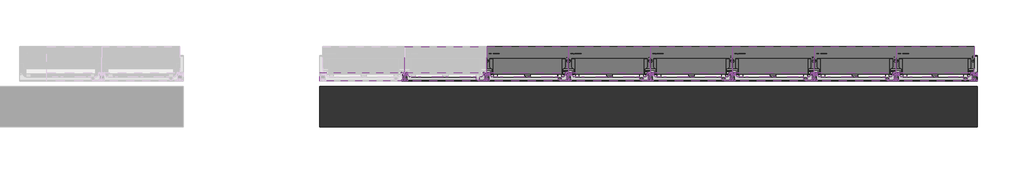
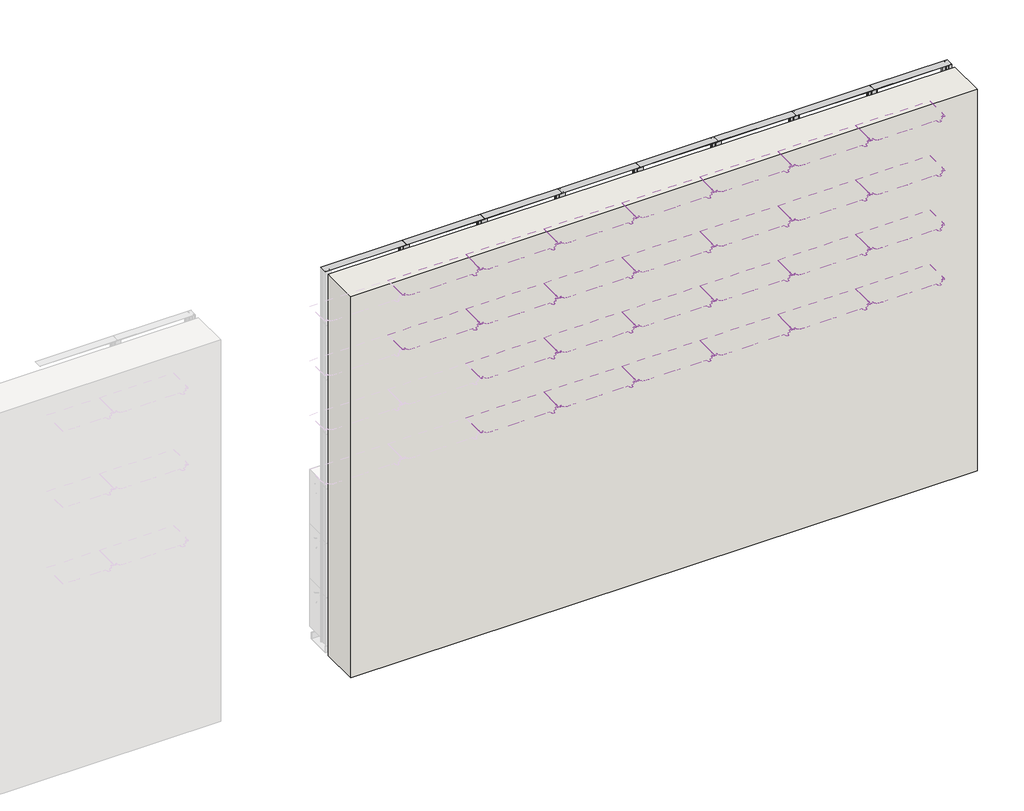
# One storey, part 3 of 3: 69 members, 44 coverings, 1 wall.
"""IFC4 building model written with IfcOpenShell, lengths in millimetres."""

from ifc_helpers import new_model, si_unit, origin, origin_with_axes, place, context, project, spatial, polyline, outline, extrude, transform, mapped, element, save
from components import covering_7a5a7cfb, covering_14e27d56, covering_4c2a7df2, covering_16bc3edb, covering_8846b90d, covering_6783e6d6, covering_dcb4c012, covering_a6f7bad7, covering_4e535264, covering_ffdf41f5, covering_7d83ccac, covering_c7b0dbd7, montante_rettangolare_9a79dadd, montante_rettangolare_b34aec30, montante_rettangolare_631e3b4a, montante_rettangolare_e932fd89, montante_rettangolare_6998f733, montante_rettangolare_dbf9407e, montante_rettangolare_a1bb0029, montante_rettangolare_babdd543, montante_rettangolare_953541ee, montante_rettangolare_093b8246, montante_rettangolare_ba41fc1c

model = new_model("IFC4")

# Units and contexts
model_context = context("Model", 3, world=origin())
ifc_project = project(units=[si_unit("LENGTHUNIT", "METRE", prefix="MILLI")], contexts=[model_context])

# Site, building, storey
site = spatial("IfcSite", under=ifc_project)
building = spatial("IfcBuilding", under=site)
storey = spatial("IfcBuildingStorey", under=building, Name="Plant view - Fine details level - VP Modulo", Elevation=0.0)

# Coverings
placement = place(None, origin())
covering_shape = covering_7a5a7cfb(model_context)
covering_2_shape = covering_14e27d56(model_context)
element("IfcCovering", 1, ObjectType="panel VP Modulo prova ultima texture : panel VP Modulo prova ultima texture", at=placement, inside=storey, context=model_context, shape_type="MappedRepresentation", body=[
    mapped(covering_shape, transform((12126.1795041, -498.0626129, 52.4801246), x_axis=(1.0, 0.0, 0.0), y_axis=(0.0, 1.0, 0.0), z_axis=(0.0, 0.0, 1.0))),
    mapped(covering_2_shape, transform((12126.1795041, -498.0626129, 52.4801246), x_axis=(1.0, 0.0, 0.0), y_axis=(0.0, 1.0, 0.0), z_axis=(0.0, 0.0, 1.0))),
])
element("IfcCovering", 2, ObjectType="panel VP Modulo prova ultima texture : panel VP Modulo prova ultima texture", at=placement, inside=storey, context=model_context, shape_type="MappedRepresentation", body=[
    mapped(covering_shape, transform((12726.1795041, -498.0626129, 52.4801246), x_axis=(1.0, 0.0, 0.0), y_axis=(0.0, 1.0, 0.0), z_axis=(0.0, 0.0, 1.0))),
    mapped(covering_2_shape, transform((12726.1795041, -498.0626129, 52.4801246), x_axis=(1.0, 0.0, 0.0), y_axis=(0.0, 1.0, 0.0), z_axis=(0.0, 0.0, 1.0))),
])
element("IfcCovering", 3, ObjectType="panel VP Modulo prova ultima texture : panel VP Modulo prova ultima texture", at=placement, inside=storey, context=model_context, shape_type="MappedRepresentation", body=[
    mapped(covering_shape, transform((13326.1795041, -498.0626129, 52.4801246), x_axis=(1.0, 0.0, 0.0), y_axis=(0.0, 1.0, 0.0), z_axis=(0.0, 0.0, 1.0))),
    mapped(covering_2_shape, transform((13326.1795041, -498.0626129, 52.4801246), x_axis=(1.0, 0.0, 0.0), y_axis=(0.0, 1.0, 0.0), z_axis=(0.0, 0.0, 1.0))),
])
element("IfcCovering", 4, ObjectType="panel VP Modulo prova ultima texture : panel VP Modulo prova ultima texture", at=placement, inside=storey, context=model_context, shape_type="MappedRepresentation", body=[
    mapped(covering_shape, transform((13926.1795041, -498.0626129, 52.4801246), x_axis=(1.0, 0.0, 0.0), y_axis=(0.0, 1.0, 0.0), z_axis=(0.0, 0.0, 1.0))),
    mapped(covering_2_shape, transform((13926.1795041, -498.0626129, 52.4801246), x_axis=(1.0, 0.0, 0.0), y_axis=(0.0, 1.0, 0.0), z_axis=(0.0, 0.0, 1.0))),
])
element("IfcCovering", 5, ObjectType="panel VP Modulo prova ultima texture : panel VP Modulo prova ultima texture", at=placement, inside=storey, context=model_context, shape_type="MappedRepresentation", body=[
    mapped(covering_shape, transform((14526.1795041, -498.0626129, 52.4801246), x_axis=(1.0, 0.0, 0.0), y_axis=(0.0, 1.0, 0.0), z_axis=(0.0, 0.0, 1.0))),
    mapped(covering_2_shape, transform((14526.1795041, -498.0626129, 52.4801246), x_axis=(1.0, 0.0, 0.0), y_axis=(0.0, 1.0, 0.0), z_axis=(0.0, 0.0, 1.0))),
])
covering_3_shape = covering_4c2a7df2(model_context)
covering_4_shape = covering_16bc3edb(model_context)
element("IfcCovering", 6, ObjectType="panel VP Modulo prova ultima texture : panel VP Modulo prova ultima texture", at=placement, inside=storey, context=model_context, shape_type="MappedRepresentation", body=[
    mapped(covering_3_shape, transform((15112.41991, -498.0626129, 52.4801246), x_axis=(1.0, 0.0, 0.0), y_axis=(0.0, 1.0, 0.0), z_axis=(0.0, 0.0, 1.0))),
    mapped(covering_4_shape, transform((15112.41991, -498.0626129, 52.4801246), x_axis=(1.0, 0.0, 0.0), y_axis=(0.0, 1.0, 0.0), z_axis=(0.0, 0.0, 1.0))),
])
covering_5_shape = covering_8846b90d(model_context)
covering_6_shape = covering_6783e6d6(model_context)
element("IfcCovering", 7, ObjectType="panel VP Modulo prova ultima texture : panel VP Modulo prova ultima texture", at=placement, inside=storey, context=model_context, shape_type="MappedRepresentation", body=[
    mapped(covering_5_shape, transform((12126.1795041, -498.0626129, 442.8571429), x_axis=(1.0, 0.0, 0.0), y_axis=(0.0, 1.0, 0.0), z_axis=(0.0, 0.0, 1.0))),
    mapped(covering_6_shape, transform((12126.1795041, -498.0626129, 442.8571429), x_axis=(1.0, 0.0, 0.0), y_axis=(0.0, 1.0, 0.0), z_axis=(0.0, 0.0, 1.0))),
])
element("IfcCovering", 8, ObjectType="panel VP Modulo prova ultima texture : panel VP Modulo prova ultima texture", at=placement, inside=storey, context=model_context, shape_type="MappedRepresentation", body=[
    mapped(covering_5_shape, transform((12726.1795041, -498.0626129, 442.8571429), x_axis=(1.0, 0.0, 0.0), y_axis=(0.0, 1.0, 0.0), z_axis=(0.0, 0.0, 1.0))),
    mapped(covering_6_shape, transform((12726.1795041, -498.0626129, 442.8571429), x_axis=(1.0, 0.0, 0.0), y_axis=(0.0, 1.0, 0.0), z_axis=(0.0, 0.0, 1.0))),
])
element("IfcCovering", 9, ObjectType="panel VP Modulo prova ultima texture : panel VP Modulo prova ultima texture", at=placement, inside=storey, context=model_context, shape_type="MappedRepresentation", body=[
    mapped(covering_5_shape, transform((13326.1795041, -498.0626129, 442.8571429), x_axis=(1.0, 0.0, 0.0), y_axis=(0.0, 1.0, 0.0), z_axis=(0.0, 0.0, 1.0))),
    mapped(covering_6_shape, transform((13326.1795041, -498.0626129, 442.8571429), x_axis=(1.0, 0.0, 0.0), y_axis=(0.0, 1.0, 0.0), z_axis=(0.0, 0.0, 1.0))),
])
element("IfcCovering", 10, ObjectType="panel VP Modulo prova ultima texture : panel VP Modulo prova ultima texture", at=placement, inside=storey, context=model_context, shape_type="MappedRepresentation", body=[
    mapped(covering_5_shape, transform((13926.1795041, -498.0626129, 442.8571429), x_axis=(1.0, 0.0, 0.0), y_axis=(0.0, 1.0, 0.0), z_axis=(0.0, 0.0, 1.0))),
    mapped(covering_6_shape, transform((13926.1795041, -498.0626129, 442.8571429), x_axis=(1.0, 0.0, 0.0), y_axis=(0.0, 1.0, 0.0), z_axis=(0.0, 0.0, 1.0))),
])
element("IfcCovering", 11, ObjectType="panel VP Modulo prova ultima texture : panel VP Modulo prova ultima texture", at=placement, inside=storey, context=model_context, shape_type="MappedRepresentation", body=[
    mapped(covering_5_shape, transform((14526.1795041, -498.0626129, 442.8571429), x_axis=(1.0, 0.0, 0.0), y_axis=(0.0, 1.0, 0.0), z_axis=(0.0, 0.0, 1.0))),
    mapped(covering_6_shape, transform((14526.1795041, -498.0626129, 442.8571429), x_axis=(1.0, 0.0, 0.0), y_axis=(0.0, 1.0, 0.0), z_axis=(0.0, 0.0, 1.0))),
])
element("IfcCovering", 12, ObjectType="panel VP Modulo prova ultima texture : panel VP Modulo prova ultima texture", at=placement, inside=storey, context=model_context, shape_type="MappedRepresentation", body=[
    mapped(covering_5_shape, transform((12126.1795041, -498.0626129, 885.7142857), x_axis=(1.0, 0.0, 0.0), y_axis=(0.0, 1.0, 0.0), z_axis=(0.0, 0.0, 1.0))),
    mapped(covering_6_shape, transform((12126.1795041, -498.0626129, 885.7142857), x_axis=(1.0, 0.0, 0.0), y_axis=(0.0, 1.0, 0.0), z_axis=(0.0, 0.0, 1.0))),
])
element("IfcCovering", 13, ObjectType="panel VP Modulo prova ultima texture : panel VP Modulo prova ultima texture", at=placement, inside=storey, context=model_context, shape_type="MappedRepresentation", body=[
    mapped(covering_5_shape, transform((12726.1795041, -498.0626129, 885.7142857), x_axis=(1.0, 0.0, 0.0), y_axis=(0.0, 1.0, 0.0), z_axis=(0.0, 0.0, 1.0))),
    mapped(covering_6_shape, transform((12726.1795041, -498.0626129, 885.7142857), x_axis=(1.0, 0.0, 0.0), y_axis=(0.0, 1.0, 0.0), z_axis=(0.0, 0.0, 1.0))),
])
element("IfcCovering", 14, ObjectType="panel VP Modulo prova ultima texture : panel VP Modulo prova ultima texture", at=placement, inside=storey, context=model_context, shape_type="MappedRepresentation", body=[
    mapped(covering_5_shape, transform((13326.1795041, -498.0626129, 885.7142857), x_axis=(1.0, 0.0, 0.0), y_axis=(0.0, 1.0, 0.0), z_axis=(0.0, 0.0, 1.0))),
    mapped(covering_6_shape, transform((13326.1795041, -498.0626129, 885.7142857), x_axis=(1.0, 0.0, 0.0), y_axis=(0.0, 1.0, 0.0), z_axis=(0.0, 0.0, 1.0))),
])
element("IfcCovering", 15, ObjectType="panel VP Modulo prova ultima texture : panel VP Modulo prova ultima texture", at=placement, inside=storey, context=model_context, shape_type="MappedRepresentation", body=[
    mapped(covering_5_shape, transform((13926.1795041, -498.0626129, 885.7142857), x_axis=(1.0, 0.0, 0.0), y_axis=(0.0, 1.0, 0.0), z_axis=(0.0, 0.0, 1.0))),
    mapped(covering_6_shape, transform((13926.1795041, -498.0626129, 885.7142857), x_axis=(1.0, 0.0, 0.0), y_axis=(0.0, 1.0, 0.0), z_axis=(0.0, 0.0, 1.0))),
])
element("IfcCovering", 16, ObjectType="panel VP Modulo prova ultima texture : panel VP Modulo prova ultima texture", at=placement, inside=storey, context=model_context, shape_type="MappedRepresentation", body=[
    mapped(covering_5_shape, transform((14526.1795041, -498.0626129, 885.7142857), x_axis=(1.0, 0.0, 0.0), y_axis=(0.0, 1.0, 0.0), z_axis=(0.0, 0.0, 1.0))),
    mapped(covering_6_shape, transform((14526.1795041, -498.0626129, 885.7142857), x_axis=(1.0, 0.0, 0.0), y_axis=(0.0, 1.0, 0.0), z_axis=(0.0, 0.0, 1.0))),
])
element("IfcCovering", 17, ObjectType="panel VP Modulo prova ultima texture : panel VP Modulo prova ultima texture", at=placement, inside=storey, context=model_context, shape_type="MappedRepresentation", body=[
    mapped(covering_5_shape, transform((12126.1795041, -498.0626129, 1328.5714286), x_axis=(1.0, 0.0, 0.0), y_axis=(0.0, 1.0, 0.0), z_axis=(0.0, 0.0, 1.0))),
    mapped(covering_6_shape, transform((12126.1795041, -498.0626129, 1328.5714286), x_axis=(1.0, 0.0, 0.0), y_axis=(0.0, 1.0, 0.0), z_axis=(0.0, 0.0, 1.0))),
])
element("IfcCovering", 18, ObjectType="panel VP Modulo prova ultima texture : panel VP Modulo prova ultima texture", at=placement, inside=storey, context=model_context, shape_type="MappedRepresentation", body=[
    mapped(covering_5_shape, transform((12726.1795041, -498.0626129, 1328.5714286), x_axis=(1.0, 0.0, 0.0), y_axis=(0.0, 1.0, 0.0), z_axis=(0.0, 0.0, 1.0))),
    mapped(covering_6_shape, transform((12726.1795041, -498.0626129, 1328.5714286), x_axis=(1.0, 0.0, 0.0), y_axis=(0.0, 1.0, 0.0), z_axis=(0.0, 0.0, 1.0))),
])
element("IfcCovering", 19, ObjectType="panel VP Modulo prova ultima texture : panel VP Modulo prova ultima texture", at=placement, inside=storey, context=model_context, shape_type="MappedRepresentation", body=[
    mapped(covering_5_shape, transform((13326.1795041, -498.0626129, 1328.5714286), x_axis=(1.0, 0.0, 0.0), y_axis=(0.0, 1.0, 0.0), z_axis=(0.0, 0.0, 1.0))),
    mapped(covering_6_shape, transform((13326.1795041, -498.0626129, 1328.5714286), x_axis=(1.0, 0.0, 0.0), y_axis=(0.0, 1.0, 0.0), z_axis=(0.0, 0.0, 1.0))),
])
element("IfcCovering", 20, ObjectType="panel VP Modulo prova ultima texture : panel VP Modulo prova ultima texture", at=placement, inside=storey, context=model_context, shape_type="MappedRepresentation", body=[
    mapped(covering_5_shape, transform((13926.1795041, -498.0626129, 1328.5714286), x_axis=(1.0, 0.0, 0.0), y_axis=(0.0, 1.0, 0.0), z_axis=(0.0, 0.0, 1.0))),
    mapped(covering_6_shape, transform((13926.1795041, -498.0626129, 1328.5714286), x_axis=(1.0, 0.0, 0.0), y_axis=(0.0, 1.0, 0.0), z_axis=(0.0, 0.0, 1.0))),
])
element("IfcCovering", 21, ObjectType="panel VP Modulo prova ultima texture : panel VP Modulo prova ultima texture", at=placement, inside=storey, context=model_context, shape_type="MappedRepresentation", body=[
    mapped(covering_5_shape, transform((14526.1795041, -498.0626129, 1328.5714286), x_axis=(1.0, 0.0, 0.0), y_axis=(0.0, 1.0, 0.0), z_axis=(0.0, 0.0, 1.0))),
    mapped(covering_6_shape, transform((14526.1795041, -498.0626129, 1328.5714286), x_axis=(1.0, 0.0, 0.0), y_axis=(0.0, 1.0, 0.0), z_axis=(0.0, 0.0, 1.0))),
])
element("IfcCovering", 22, ObjectType="panel VP Modulo prova ultima texture : panel VP Modulo prova ultima texture", at=placement, inside=storey, context=model_context, shape_type="MappedRepresentation", body=[
    mapped(covering_5_shape, transform((12126.1795041, -498.0626129, 1771.4285714), x_axis=(1.0, 0.0, 0.0), y_axis=(0.0, 1.0, 0.0), z_axis=(0.0, 0.0, 1.0))),
    mapped(covering_6_shape, transform((12126.1795041, -498.0626129, 1771.4285714), x_axis=(1.0, 0.0, 0.0), y_axis=(0.0, 1.0, 0.0), z_axis=(0.0, 0.0, 1.0))),
])
element("IfcCovering", 23, ObjectType="panel VP Modulo prova ultima texture : panel VP Modulo prova ultima texture", at=placement, inside=storey, context=model_context, shape_type="MappedRepresentation", body=[
    mapped(covering_5_shape, transform((12726.1795041, -498.0626129, 1771.4285714), x_axis=(1.0, 0.0, 0.0), y_axis=(0.0, 1.0, 0.0), z_axis=(0.0, 0.0, 1.0))),
    mapped(covering_6_shape, transform((12726.1795041, -498.0626129, 1771.4285714), x_axis=(1.0, 0.0, 0.0), y_axis=(0.0, 1.0, 0.0), z_axis=(0.0, 0.0, 1.0))),
])
element("IfcCovering", 24, ObjectType="panel VP Modulo prova ultima texture : panel VP Modulo prova ultima texture", at=placement, inside=storey, context=model_context, shape_type="MappedRepresentation", body=[
    mapped(covering_5_shape, transform((13326.1795041, -498.0626129, 1771.4285714), x_axis=(1.0, 0.0, 0.0), y_axis=(0.0, 1.0, 0.0), z_axis=(0.0, 0.0, 1.0))),
    mapped(covering_6_shape, transform((13326.1795041, -498.0626129, 1771.4285714), x_axis=(1.0, 0.0, 0.0), y_axis=(0.0, 1.0, 0.0), z_axis=(0.0, 0.0, 1.0))),
])
element("IfcCovering", 25, ObjectType="panel VP Modulo prova ultima texture : panel VP Modulo prova ultima texture", at=placement, inside=storey, context=model_context, shape_type="MappedRepresentation", body=[
    mapped(covering_5_shape, transform((13926.1795041, -498.0626129, 1771.4285714), x_axis=(1.0, 0.0, 0.0), y_axis=(0.0, 1.0, 0.0), z_axis=(0.0, 0.0, 1.0))),
    mapped(covering_6_shape, transform((13926.1795041, -498.0626129, 1771.4285714), x_axis=(1.0, 0.0, 0.0), y_axis=(0.0, 1.0, 0.0), z_axis=(0.0, 0.0, 1.0))),
])
element("IfcCovering", 26, ObjectType="panel VP Modulo prova ultima texture : panel VP Modulo prova ultima texture", at=placement, inside=storey, context=model_context, shape_type="MappedRepresentation", body=[
    mapped(covering_5_shape, transform((14526.1795041, -498.0626129, 1771.4285714), x_axis=(1.0, 0.0, 0.0), y_axis=(0.0, 1.0, 0.0), z_axis=(0.0, 0.0, 1.0))),
    mapped(covering_6_shape, transform((14526.1795041, -498.0626129, 1771.4285714), x_axis=(1.0, 0.0, 0.0), y_axis=(0.0, 1.0, 0.0), z_axis=(0.0, 0.0, 1.0))),
])
element("IfcCovering", 27, ObjectType="panel VP Modulo prova ultima texture : panel VP Modulo prova ultima texture", at=placement, inside=storey, context=model_context, shape_type="MappedRepresentation", body=[
    mapped(covering_5_shape, transform((11526.1795041, -498.0626129, 2214.2857143), x_axis=(1.0, 0.0, 0.0), y_axis=(0.0, 1.0, 0.0), z_axis=(0.0, 0.0, 1.0))),
    mapped(covering_6_shape, transform((11526.1795041, -498.0626129, 2214.2857143), x_axis=(1.0, 0.0, 0.0), y_axis=(0.0, 1.0, 0.0), z_axis=(0.0, 0.0, 1.0))),
])
element("IfcCovering", 28, ObjectType="panel VP Modulo prova ultima texture : panel VP Modulo prova ultima texture", at=placement, inside=storey, context=model_context, shape_type="MappedRepresentation", body=[
    mapped(covering_5_shape, transform((12126.1795041, -498.0626129, 2214.2857143), x_axis=(1.0, 0.0, 0.0), y_axis=(0.0, 1.0, 0.0), z_axis=(0.0, 0.0, 1.0))),
    mapped(covering_6_shape, transform((12126.1795041, -498.0626129, 2214.2857143), x_axis=(1.0, 0.0, 0.0), y_axis=(0.0, 1.0, 0.0), z_axis=(0.0, 0.0, 1.0))),
])
element("IfcCovering", 29, ObjectType="panel VP Modulo prova ultima texture : panel VP Modulo prova ultima texture", at=placement, inside=storey, context=model_context, shape_type="MappedRepresentation", body=[
    mapped(covering_5_shape, transform((12726.1795041, -498.0626129, 2214.2857143), x_axis=(1.0, 0.0, 0.0), y_axis=(0.0, 1.0, 0.0), z_axis=(0.0, 0.0, 1.0))),
    mapped(covering_6_shape, transform((12726.1795041, -498.0626129, 2214.2857143), x_axis=(1.0, 0.0, 0.0), y_axis=(0.0, 1.0, 0.0), z_axis=(0.0, 0.0, 1.0))),
])
element("IfcCovering", 30, ObjectType="panel VP Modulo prova ultima texture : panel VP Modulo prova ultima texture", at=placement, inside=storey, context=model_context, shape_type="MappedRepresentation", body=[
    mapped(covering_5_shape, transform((13326.1795041, -498.0626129, 2214.2857143), x_axis=(1.0, 0.0, 0.0), y_axis=(0.0, 1.0, 0.0), z_axis=(0.0, 0.0, 1.0))),
    mapped(covering_6_shape, transform((13326.1795041, -498.0626129, 2214.2857143), x_axis=(1.0, 0.0, 0.0), y_axis=(0.0, 1.0, 0.0), z_axis=(0.0, 0.0, 1.0))),
])
element("IfcCovering", 31, ObjectType="panel VP Modulo prova ultima texture : panel VP Modulo prova ultima texture", at=placement, inside=storey, context=model_context, shape_type="MappedRepresentation", body=[
    mapped(covering_5_shape, transform((13926.1795041, -498.0626129, 2214.2857143), x_axis=(1.0, 0.0, 0.0), y_axis=(0.0, 1.0, 0.0), z_axis=(0.0, 0.0, 1.0))),
    mapped(covering_6_shape, transform((13926.1795041, -498.0626129, 2214.2857143), x_axis=(1.0, 0.0, 0.0), y_axis=(0.0, 1.0, 0.0), z_axis=(0.0, 0.0, 1.0))),
])
element("IfcCovering", 32, ObjectType="panel VP Modulo prova ultima texture : panel VP Modulo prova ultima texture", at=placement, inside=storey, context=model_context, shape_type="MappedRepresentation", body=[
    mapped(covering_5_shape, transform((14526.1795041, -498.0626129, 2214.2857143), x_axis=(1.0, 0.0, 0.0), y_axis=(0.0, 1.0, 0.0), z_axis=(0.0, 0.0, 1.0))),
    mapped(covering_6_shape, transform((14526.1795041, -498.0626129, 2214.2857143), x_axis=(1.0, 0.0, 0.0), y_axis=(0.0, 1.0, 0.0), z_axis=(0.0, 0.0, 1.0))),
])
covering_7_shape = covering_dcb4c012(model_context)
covering_8_shape = covering_a6f7bad7(model_context)
element("IfcCovering", 33, ObjectType="panel VP Modulo prova ultima texture : panel VP Modulo prova ultima texture", at=placement, inside=storey, context=model_context, shape_type="MappedRepresentation", body=[
    mapped(covering_7_shape, transform((15112.41991, -498.0626129, 442.8571429), x_axis=(1.0, 0.0, 0.0), y_axis=(0.0, 1.0, 0.0), z_axis=(0.0, 0.0, 1.0))),
    mapped(covering_8_shape, transform((15112.41991, -498.0626129, 442.8571429), x_axis=(1.0, 0.0, 0.0), y_axis=(0.0, 1.0, 0.0), z_axis=(0.0, 0.0, 1.0))),
])
element("IfcCovering", 34, ObjectType="panel VP Modulo prova ultima texture : panel VP Modulo prova ultima texture", at=placement, inside=storey, context=model_context, shape_type="MappedRepresentation", body=[
    mapped(covering_7_shape, transform((15112.41991, -498.0626129, 885.7142857), x_axis=(1.0, 0.0, 0.0), y_axis=(0.0, 1.0, 0.0), z_axis=(0.0, 0.0, 1.0))),
    mapped(covering_8_shape, transform((15112.41991, -498.0626129, 885.7142857), x_axis=(1.0, 0.0, 0.0), y_axis=(0.0, 1.0, 0.0), z_axis=(0.0, 0.0, 1.0))),
])
element("IfcCovering", 35, ObjectType="panel VP Modulo prova ultima texture : panel VP Modulo prova ultima texture", at=placement, inside=storey, context=model_context, shape_type="MappedRepresentation", body=[
    mapped(covering_7_shape, transform((15112.41991, -498.0626129, 1328.5714286), x_axis=(1.0, 0.0, 0.0), y_axis=(0.0, 1.0, 0.0), z_axis=(0.0, 0.0, 1.0))),
    mapped(covering_8_shape, transform((15112.41991, -498.0626129, 1328.5714286), x_axis=(1.0, 0.0, 0.0), y_axis=(0.0, 1.0, 0.0), z_axis=(0.0, 0.0, 1.0))),
])
element("IfcCovering", 36, ObjectType="panel VP Modulo prova ultima texture : panel VP Modulo prova ultima texture", at=placement, inside=storey, context=model_context, shape_type="MappedRepresentation", body=[
    mapped(covering_7_shape, transform((15112.41991, -498.0626129, 1771.4285714), x_axis=(1.0, 0.0, 0.0), y_axis=(0.0, 1.0, 0.0), z_axis=(0.0, 0.0, 1.0))),
    mapped(covering_8_shape, transform((15112.41991, -498.0626129, 1771.4285714), x_axis=(1.0, 0.0, 0.0), y_axis=(0.0, 1.0, 0.0), z_axis=(0.0, 0.0, 1.0))),
])
element("IfcCovering", 37, ObjectType="panel VP Modulo prova ultima texture : panel VP Modulo prova ultima texture", at=placement, inside=storey, context=model_context, shape_type="MappedRepresentation", body=[
    mapped(covering_7_shape, transform((15112.41991, -498.0626129, 2214.2857143), x_axis=(1.0, 0.0, 0.0), y_axis=(0.0, 1.0, 0.0), z_axis=(0.0, 0.0, 1.0))),
    mapped(covering_8_shape, transform((15112.41991, -498.0626129, 2214.2857143), x_axis=(1.0, 0.0, 0.0), y_axis=(0.0, 1.0, 0.0), z_axis=(0.0, 0.0, 1.0))),
])
covering_9_shape = covering_4e535264(model_context)
covering_10_shape = covering_ffdf41f5(model_context)
element("IfcCovering", 38, ObjectType="panel VP Modulo prova ultima texture : panel VP Modulo prova ultima texture", at=placement, inside=storey, context=model_context, shape_type="MappedRepresentation", body=[
    mapped(covering_9_shape, transform((11526.1795041, -498.0626129, 2657.1428571), x_axis=(1.0, 0.0, 0.0), y_axis=(0.0, 1.0, 0.0), z_axis=(0.0, 0.0, 1.0))),
    mapped(covering_10_shape, transform((11526.1795041, -498.0626129, 2657.1428571), x_axis=(1.0, 0.0, 0.0), y_axis=(0.0, 1.0, 0.0), z_axis=(0.0, 0.0, 1.0))),
])
element("IfcCovering", 39, ObjectType="panel VP Modulo prova ultima texture : panel VP Modulo prova ultima texture", at=placement, inside=storey, context=model_context, shape_type="MappedRepresentation", body=[
    mapped(covering_9_shape, transform((12126.1795041, -498.0626129, 2657.1428571), x_axis=(1.0, 0.0, 0.0), y_axis=(0.0, 1.0, 0.0), z_axis=(0.0, 0.0, 1.0))),
    mapped(covering_10_shape, transform((12126.1795041, -498.0626129, 2657.1428571), x_axis=(1.0, 0.0, 0.0), y_axis=(0.0, 1.0, 0.0), z_axis=(0.0, 0.0, 1.0))),
])
element("IfcCovering", 40, ObjectType="panel VP Modulo prova ultima texture : panel VP Modulo prova ultima texture", at=placement, inside=storey, context=model_context, shape_type="MappedRepresentation", body=[
    mapped(covering_9_shape, transform((12726.1795041, -498.0626129, 2657.1428571), x_axis=(1.0, 0.0, 0.0), y_axis=(0.0, 1.0, 0.0), z_axis=(0.0, 0.0, 1.0))),
    mapped(covering_10_shape, transform((12726.1795041, -498.0626129, 2657.1428571), x_axis=(1.0, 0.0, 0.0), y_axis=(0.0, 1.0, 0.0), z_axis=(0.0, 0.0, 1.0))),
])
element("IfcCovering", 41, ObjectType="panel VP Modulo prova ultima texture : panel VP Modulo prova ultima texture", at=placement, inside=storey, context=model_context, shape_type="MappedRepresentation", body=[
    mapped(covering_9_shape, transform((13326.1795041, -498.0626129, 2657.1428571), x_axis=(1.0, 0.0, 0.0), y_axis=(0.0, 1.0, 0.0), z_axis=(0.0, 0.0, 1.0))),
    mapped(covering_10_shape, transform((13326.1795041, -498.0626129, 2657.1428571), x_axis=(1.0, 0.0, 0.0), y_axis=(0.0, 1.0, 0.0), z_axis=(0.0, 0.0, 1.0))),
])
element("IfcCovering", 42, ObjectType="panel VP Modulo prova ultima texture : panel VP Modulo prova ultima texture", at=placement, inside=storey, context=model_context, shape_type="MappedRepresentation", body=[
    mapped(covering_9_shape, transform((13926.1795041, -498.0626129, 2657.1428571), x_axis=(1.0, 0.0, 0.0), y_axis=(0.0, 1.0, 0.0), z_axis=(0.0, 0.0, 1.0))),
    mapped(covering_10_shape, transform((13926.1795041, -498.0626129, 2657.1428571), x_axis=(1.0, 0.0, 0.0), y_axis=(0.0, 1.0, 0.0), z_axis=(0.0, 0.0, 1.0))),
])
element("IfcCovering", 43, ObjectType="panel VP Modulo prova ultima texture : panel VP Modulo prova ultima texture", at=placement, inside=storey, context=model_context, shape_type="MappedRepresentation", body=[
    mapped(covering_9_shape, transform((14526.1795041, -498.0626129, 2657.1428571), x_axis=(1.0, 0.0, 0.0), y_axis=(0.0, 1.0, 0.0), z_axis=(0.0, 0.0, 1.0))),
    mapped(covering_10_shape, transform((14526.1795041, -498.0626129, 2657.1428571), x_axis=(1.0, 0.0, 0.0), y_axis=(0.0, 1.0, 0.0), z_axis=(0.0, 0.0, 1.0))),
])
covering_11_shape = covering_7d83ccac(model_context)
covering_12_shape = covering_c7b0dbd7(model_context)
element("IfcCovering", 44, ObjectType="panel VP Modulo prova ultima texture : panel VP Modulo prova ultima texture", at=placement, inside=storey, context=model_context, shape_type="MappedRepresentation", body=[
    mapped(covering_11_shape, transform((15112.41991, -498.0626129, 2657.1428571), x_axis=(1.0, 0.0, 0.0), y_axis=(0.0, 1.0, 0.0), z_axis=(0.0, 0.0, 1.0))),
    mapped(covering_12_shape, transform((15112.41991, -498.0626129, 2657.1428571), x_axis=(1.0, 0.0, 0.0), y_axis=(0.0, 1.0, 0.0), z_axis=(0.0, 0.0, 1.0))),
])

# Members
montante_rettangolare_shape = montante_rettangolare_9a79dadd(model_context)
element("IfcMember", 45, ObjectType="Montante rettangolare : Verde Profilo's RaceWaterDrainFloor", at=placement, inside=storey, context=model_context, shape_type="MappedRepresentation", body=[
    mapped(montante_rettangolare_shape, transform((11226.1795041, -498.0626129, 0.0), x_axis=(0.0, 0.0, -1.0), y_axis=(0.0, -1.0, 0.0), z_axis=(-1.0, 0.0, 0.0))),
])
element("IfcMember", 46, ObjectType="Montante rettangolare : Verde Profilo's RaceWaterDrainFloor", at=placement, inside=storey, context=model_context, shape_type="MappedRepresentation", body=[
    mapped(montante_rettangolare_shape, transform((11826.1795041, -498.0626129, 0.0), x_axis=(0.0, 0.0, -1.0), y_axis=(0.0, -1.0, 0.0), z_axis=(-1.0, 0.0, 0.0))),
])
element("IfcMember", 47, ObjectType="Montante rettangolare : Verde Profilo's RaceWaterDrainFloor", at=placement, inside=storey, context=model_context, shape_type="MappedRepresentation", body=[
    mapped(montante_rettangolare_shape, transform((12426.1795041, -498.0626129, 0.0), x_axis=(0.0, 0.0, -1.0), y_axis=(0.0, -1.0, 0.0), z_axis=(-1.0, 0.0, 0.0))),
])
element("IfcMember", 48, ObjectType="Montante rettangolare : Verde Profilo's RaceWaterDrainFloor", at=placement, inside=storey, context=model_context, shape_type="MappedRepresentation", body=[
    mapped(montante_rettangolare_shape, transform((13026.1795041, -498.0626129, 0.0), x_axis=(0.0, 0.0, -1.0), y_axis=(0.0, -1.0, 0.0), z_axis=(-1.0, 0.0, 0.0))),
])
element("IfcMember", 49, ObjectType="Montante rettangolare : Verde Profilo's RaceWaterDrainFloor", at=placement, inside=storey, context=model_context, shape_type="MappedRepresentation", body=[
    mapped(montante_rettangolare_shape, transform((13626.1795041, -498.0626129, 0.0), x_axis=(0.0, 0.0, -1.0), y_axis=(0.0, -1.0, 0.0), z_axis=(-1.0, 0.0, 0.0))),
])
element("IfcMember", 50, ObjectType="Montante rettangolare : Verde Profilo's RaceWaterDrainFloor", at=placement, inside=storey, context=model_context, shape_type="MappedRepresentation", body=[
    mapped(montante_rettangolare_shape, transform((14226.1795041, -498.0626129, 0.0), x_axis=(0.0, 0.0, -1.0), y_axis=(0.0, -1.0, 0.0), z_axis=(-1.0, 0.0, 0.0))),
])
montante_rettangolare_2_shape = montante_rettangolare_b34aec30(model_context)
element("IfcMember", 51, ObjectType="Montante rettangolare : Verde Profilo's RaceWaterDrainFloor", at=placement, inside=storey, context=model_context, shape_type="MappedRepresentation", body=[
    mapped(montante_rettangolare_2_shape, transform((14826.1795041, -498.0626129, 0.0), x_axis=(0.0, 0.0, -1.0), y_axis=(0.0, -1.0, 0.0), z_axis=(-1.0, 0.0, 0.0))),
])
montante_rettangolare_3_shape = montante_rettangolare_631e3b4a(model_context)
element("IfcMember", 52, ObjectType="Montante rettangolare : Verde Profilo's Uprights", at=placement, inside=storey, context=model_context, shape_type="MappedRepresentation", body=[
    mapped(montante_rettangolare_3_shape, transform((12426.1795041, -498.0626129, 52.4801246), x_axis=(1.0, 0.0, 0.0), y_axis=(0.0, -1.0, 0.0), z_axis=(0.0, 0.0, -1.0))),
])
element("IfcMember", 53, ObjectType="Montante rettangolare : Verde Profilo's Uprights", at=placement, inside=storey, context=model_context, shape_type="MappedRepresentation", body=[
    mapped(montante_rettangolare_3_shape, transform((13026.1795041, -498.0626129, 52.4801246), x_axis=(1.0, 0.0, 0.0), y_axis=(0.0, -1.0, 0.0), z_axis=(0.0, 0.0, -1.0))),
])
element("IfcMember", 54, ObjectType="Montante rettangolare : Verde Profilo's Uprights", at=placement, inside=storey, context=model_context, shape_type="MappedRepresentation", body=[
    mapped(montante_rettangolare_3_shape, transform((13626.1795041, -498.0626129, 52.4801246), x_axis=(1.0, 0.0, 0.0), y_axis=(0.0, -1.0, 0.0), z_axis=(0.0, 0.0, -1.0))),
])
element("IfcMember", 55, ObjectType="Montante rettangolare : Verde Profilo's Uprights", at=placement, inside=storey, context=model_context, shape_type="MappedRepresentation", body=[
    mapped(montante_rettangolare_3_shape, transform((14226.1795041, -498.0626129, 52.4801246), x_axis=(1.0, 0.0, 0.0), y_axis=(0.0, -1.0, 0.0), z_axis=(0.0, 0.0, -1.0))),
])
element("IfcMember", 56, ObjectType="Montante rettangolare : Verde Profilo's Uprights", at=placement, inside=storey, context=model_context, shape_type="MappedRepresentation", body=[
    mapped(montante_rettangolare_3_shape, transform((14826.1795041, -498.0626129, 52.4801246), x_axis=(1.0, 0.0, 0.0), y_axis=(0.0, -1.0, 0.0), z_axis=(0.0, 0.0, -1.0))),
])
montante_rettangolare_4_shape = montante_rettangolare_e932fd89(model_context)
element("IfcMember", 57, ObjectType="Montante rettangolare : Verde Profilo's Uprights", at=placement, inside=storey, context=model_context, shape_type="MappedRepresentation", body=[
    mapped(montante_rettangolare_4_shape, transform((11226.1795041, -498.0626129, 442.8571429), x_axis=(1.0, 0.0, 0.0), y_axis=(0.0, -1.0, 0.0), z_axis=(0.0, 0.0, -1.0))),
])
element("IfcMember", 58, ObjectType="Montante rettangolare : Verde Profilo's Uprights", at=placement, inside=storey, context=model_context, shape_type="MappedRepresentation", body=[
    mapped(montante_rettangolare_4_shape, transform((11826.1795041, -498.0626129, 442.8571429), x_axis=(1.0, 0.0, 0.0), y_axis=(0.0, -1.0, 0.0), z_axis=(0.0, 0.0, -1.0))),
])
element("IfcMember", 59, ObjectType="Montante rettangolare : Verde Profilo's Uprights", at=placement, inside=storey, context=model_context, shape_type="MappedRepresentation", body=[
    mapped(montante_rettangolare_4_shape, transform((12426.1795041, -498.0626129, 442.8571429), x_axis=(1.0, 0.0, 0.0), y_axis=(0.0, -1.0, 0.0), z_axis=(0.0, 0.0, -1.0))),
])
element("IfcMember", 60, ObjectType="Montante rettangolare : Verde Profilo's Uprights", at=placement, inside=storey, context=model_context, shape_type="MappedRepresentation", body=[
    mapped(montante_rettangolare_4_shape, transform((13026.1795041, -498.0626129, 442.8571429), x_axis=(1.0, 0.0, 0.0), y_axis=(0.0, -1.0, 0.0), z_axis=(0.0, 0.0, -1.0))),
])
element("IfcMember", 61, ObjectType="Montante rettangolare : Verde Profilo's Uprights", at=placement, inside=storey, context=model_context, shape_type="MappedRepresentation", body=[
    mapped(montante_rettangolare_4_shape, transform((13626.1795041, -498.0626129, 442.8571429), x_axis=(1.0, 0.0, 0.0), y_axis=(0.0, -1.0, 0.0), z_axis=(0.0, 0.0, -1.0))),
])
element("IfcMember", 62, ObjectType="Montante rettangolare : Verde Profilo's Uprights", at=placement, inside=storey, context=model_context, shape_type="MappedRepresentation", body=[
    mapped(montante_rettangolare_4_shape, transform((14226.1795041, -498.0626129, 442.8571429), x_axis=(1.0, 0.0, 0.0), y_axis=(0.0, -1.0, 0.0), z_axis=(0.0, 0.0, -1.0))),
])
element("IfcMember", 63, ObjectType="Montante rettangolare : Verde Profilo's Uprights", at=placement, inside=storey, context=model_context, shape_type="MappedRepresentation", body=[
    mapped(montante_rettangolare_4_shape, transform((14826.1795041, -498.0626129, 442.8571429), x_axis=(1.0, 0.0, 0.0), y_axis=(0.0, -1.0, 0.0), z_axis=(0.0, 0.0, -1.0))),
])
element("IfcMember", 64, ObjectType="Montante rettangolare : Verde Profilo's Uprights", at=placement, inside=storey, context=model_context, shape_type="MappedRepresentation", body=[
    mapped(montante_rettangolare_4_shape, transform((11226.1795041, -498.0626129, 885.7142857), x_axis=(1.0, 0.0, 0.0), y_axis=(0.0, -1.0, 0.0), z_axis=(0.0, 0.0, -1.0))),
])
element("IfcMember", 65, ObjectType="Montante rettangolare : Verde Profilo's Uprights", at=placement, inside=storey, context=model_context, shape_type="MappedRepresentation", body=[
    mapped(montante_rettangolare_4_shape, transform((11826.1795041, -498.0626129, 885.7142857), x_axis=(1.0, 0.0, 0.0), y_axis=(0.0, -1.0, 0.0), z_axis=(0.0, 0.0, -1.0))),
])
element("IfcMember", 66, ObjectType="Montante rettangolare : Verde Profilo's Uprights", at=placement, inside=storey, context=model_context, shape_type="MappedRepresentation", body=[
    mapped(montante_rettangolare_4_shape, transform((12426.1795041, -498.0626129, 885.7142857), x_axis=(1.0, 0.0, 0.0), y_axis=(0.0, -1.0, 0.0), z_axis=(0.0, 0.0, -1.0))),
])
element("IfcMember", 67, ObjectType="Montante rettangolare : Verde Profilo's Uprights", at=placement, inside=storey, context=model_context, shape_type="MappedRepresentation", body=[
    mapped(montante_rettangolare_4_shape, transform((13026.1795041, -498.0626129, 885.7142857), x_axis=(1.0, 0.0, 0.0), y_axis=(0.0, -1.0, 0.0), z_axis=(0.0, 0.0, -1.0))),
])
element("IfcMember", 68, ObjectType="Montante rettangolare : Verde Profilo's Uprights", at=placement, inside=storey, context=model_context, shape_type="MappedRepresentation", body=[
    mapped(montante_rettangolare_4_shape, transform((13626.1795041, -498.0626129, 885.7142857), x_axis=(1.0, 0.0, 0.0), y_axis=(0.0, -1.0, 0.0), z_axis=(0.0, 0.0, -1.0))),
])
element("IfcMember", 69, ObjectType="Montante rettangolare : Verde Profilo's Uprights", at=placement, inside=storey, context=model_context, shape_type="MappedRepresentation", body=[
    mapped(montante_rettangolare_4_shape, transform((14226.1795041, -498.0626129, 885.7142857), x_axis=(1.0, 0.0, 0.0), y_axis=(0.0, -1.0, 0.0), z_axis=(0.0, 0.0, -1.0))),
])
element("IfcMember", 70, ObjectType="Montante rettangolare : Verde Profilo's Uprights", at=placement, inside=storey, context=model_context, shape_type="MappedRepresentation", body=[
    mapped(montante_rettangolare_4_shape, transform((14826.1795041, -498.0626129, 885.7142857), x_axis=(1.0, 0.0, 0.0), y_axis=(0.0, -1.0, 0.0), z_axis=(0.0, 0.0, -1.0))),
])
element("IfcMember", 71, ObjectType="Montante rettangolare : Verde Profilo's Uprights", at=placement, inside=storey, context=model_context, shape_type="MappedRepresentation", body=[
    mapped(montante_rettangolare_4_shape, transform((11226.1795041, -498.0626129, 1328.5714286), x_axis=(1.0, 0.0, 0.0), y_axis=(0.0, -1.0, 0.0), z_axis=(0.0, 0.0, -1.0))),
])
element("IfcMember", 72, ObjectType="Montante rettangolare : Verde Profilo's Uprights", at=placement, inside=storey, context=model_context, shape_type="MappedRepresentation", body=[
    mapped(montante_rettangolare_4_shape, transform((11826.1795041, -498.0626129, 1328.5714286), x_axis=(1.0, 0.0, 0.0), y_axis=(0.0, -1.0, 0.0), z_axis=(0.0, 0.0, -1.0))),
])
element("IfcMember", 73, ObjectType="Montante rettangolare : Verde Profilo's Uprights", at=placement, inside=storey, context=model_context, shape_type="MappedRepresentation", body=[
    mapped(montante_rettangolare_4_shape, transform((12426.1795041, -498.0626129, 1328.5714286), x_axis=(1.0, 0.0, 0.0), y_axis=(0.0, -1.0, 0.0), z_axis=(0.0, 0.0, -1.0))),
])
element("IfcMember", 74, ObjectType="Montante rettangolare : Verde Profilo's Uprights", at=placement, inside=storey, context=model_context, shape_type="MappedRepresentation", body=[
    mapped(montante_rettangolare_4_shape, transform((13026.1795041, -498.0626129, 1328.5714286), x_axis=(1.0, 0.0, 0.0), y_axis=(0.0, -1.0, 0.0), z_axis=(0.0, 0.0, -1.0))),
])
element("IfcMember", 75, ObjectType="Montante rettangolare : Verde Profilo's Uprights", at=placement, inside=storey, context=model_context, shape_type="MappedRepresentation", body=[
    mapped(montante_rettangolare_4_shape, transform((13626.1795041, -498.0626129, 1328.5714286), x_axis=(1.0, 0.0, 0.0), y_axis=(0.0, -1.0, 0.0), z_axis=(0.0, 0.0, -1.0))),
])
element("IfcMember", 76, ObjectType="Montante rettangolare : Verde Profilo's Uprights", at=placement, inside=storey, context=model_context, shape_type="MappedRepresentation", body=[
    mapped(montante_rettangolare_4_shape, transform((14226.1795041, -498.0626129, 1328.5714286), x_axis=(1.0, 0.0, 0.0), y_axis=(0.0, -1.0, 0.0), z_axis=(0.0, 0.0, -1.0))),
])
element("IfcMember", 77, ObjectType="Montante rettangolare : Verde Profilo's Uprights", at=placement, inside=storey, context=model_context, shape_type="MappedRepresentation", body=[
    mapped(montante_rettangolare_4_shape, transform((14826.1795041, -498.0626129, 1328.5714286), x_axis=(1.0, 0.0, 0.0), y_axis=(0.0, -1.0, 0.0), z_axis=(0.0, 0.0, -1.0))),
])
element("IfcMember", 78, ObjectType="Montante rettangolare : Verde Profilo's Uprights", at=placement, inside=storey, context=model_context, shape_type="MappedRepresentation", body=[
    mapped(montante_rettangolare_4_shape, transform((11226.1795041, -498.0626129, 1771.4285714), x_axis=(1.0, 0.0, 0.0), y_axis=(0.0, -1.0, 0.0), z_axis=(0.0, 0.0, -1.0))),
])
element("IfcMember", 79, ObjectType="Montante rettangolare : Verde Profilo's Uprights", at=placement, inside=storey, context=model_context, shape_type="MappedRepresentation", body=[
    mapped(montante_rettangolare_4_shape, transform((11826.1795041, -498.0626129, 1771.4285714), x_axis=(1.0, 0.0, 0.0), y_axis=(0.0, -1.0, 0.0), z_axis=(0.0, 0.0, -1.0))),
])
element("IfcMember", 80, ObjectType="Montante rettangolare : Verde Profilo's Uprights", at=placement, inside=storey, context=model_context, shape_type="MappedRepresentation", body=[
    mapped(montante_rettangolare_4_shape, transform((12426.1795041, -498.0626129, 1771.4285714), x_axis=(1.0, 0.0, 0.0), y_axis=(0.0, -1.0, 0.0), z_axis=(0.0, 0.0, -1.0))),
])
element("IfcMember", 81, ObjectType="Montante rettangolare : Verde Profilo's Uprights", at=placement, inside=storey, context=model_context, shape_type="MappedRepresentation", body=[
    mapped(montante_rettangolare_4_shape, transform((13026.1795041, -498.0626129, 1771.4285714), x_axis=(1.0, 0.0, 0.0), y_axis=(0.0, -1.0, 0.0), z_axis=(0.0, 0.0, -1.0))),
])
element("IfcMember", 82, ObjectType="Montante rettangolare : Verde Profilo's Uprights", at=placement, inside=storey, context=model_context, shape_type="MappedRepresentation", body=[
    mapped(montante_rettangolare_4_shape, transform((13626.1795041, -498.0626129, 1771.4285714), x_axis=(1.0, 0.0, 0.0), y_axis=(0.0, -1.0, 0.0), z_axis=(0.0, 0.0, -1.0))),
])
element("IfcMember", 83, ObjectType="Montante rettangolare : Verde Profilo's Uprights", at=placement, inside=storey, context=model_context, shape_type="MappedRepresentation", body=[
    mapped(montante_rettangolare_4_shape, transform((14226.1795041, -498.0626129, 1771.4285714), x_axis=(1.0, 0.0, 0.0), y_axis=(0.0, -1.0, 0.0), z_axis=(0.0, 0.0, -1.0))),
])
element("IfcMember", 84, ObjectType="Montante rettangolare : Verde Profilo's Uprights", at=placement, inside=storey, context=model_context, shape_type="MappedRepresentation", body=[
    mapped(montante_rettangolare_4_shape, transform((14826.1795041, -498.0626129, 1771.4285714), x_axis=(1.0, 0.0, 0.0), y_axis=(0.0, -1.0, 0.0), z_axis=(0.0, 0.0, -1.0))),
])
element("IfcMember", 85, ObjectType="Montante rettangolare : Verde Profilo's Uprights", at=placement, inside=storey, context=model_context, shape_type="MappedRepresentation", body=[
    mapped(montante_rettangolare_4_shape, transform((11226.1795041, -498.0626129, 2214.2857143), x_axis=(1.0, 0.0, 0.0), y_axis=(0.0, -1.0, 0.0), z_axis=(0.0, 0.0, -1.0))),
])
element("IfcMember", 86, ObjectType="Montante rettangolare : Verde Profilo's Uprights", at=placement, inside=storey, context=model_context, shape_type="MappedRepresentation", body=[
    mapped(montante_rettangolare_4_shape, transform((11826.1795041, -498.0626129, 2214.2857143), x_axis=(1.0, 0.0, 0.0), y_axis=(0.0, -1.0, 0.0), z_axis=(0.0, 0.0, -1.0))),
])
element("IfcMember", 87, ObjectType="Montante rettangolare : Verde Profilo's Uprights", at=placement, inside=storey, context=model_context, shape_type="MappedRepresentation", body=[
    mapped(montante_rettangolare_4_shape, transform((12426.1795041, -498.0626129, 2214.2857143), x_axis=(1.0, 0.0, 0.0), y_axis=(0.0, -1.0, 0.0), z_axis=(0.0, 0.0, -1.0))),
])
element("IfcMember", 88, ObjectType="Montante rettangolare : Verde Profilo's Uprights", at=placement, inside=storey, context=model_context, shape_type="MappedRepresentation", body=[
    mapped(montante_rettangolare_4_shape, transform((13026.1795041, -498.0626129, 2214.2857143), x_axis=(1.0, 0.0, 0.0), y_axis=(0.0, -1.0, 0.0), z_axis=(0.0, 0.0, -1.0))),
])
element("IfcMember", 89, ObjectType="Montante rettangolare : Verde Profilo's Uprights", at=placement, inside=storey, context=model_context, shape_type="MappedRepresentation", body=[
    mapped(montante_rettangolare_4_shape, transform((13626.1795041, -498.0626129, 2214.2857143), x_axis=(1.0, 0.0, 0.0), y_axis=(0.0, -1.0, 0.0), z_axis=(0.0, 0.0, -1.0))),
])
element("IfcMember", 90, ObjectType="Montante rettangolare : Verde Profilo's Uprights", at=placement, inside=storey, context=model_context, shape_type="MappedRepresentation", body=[
    mapped(montante_rettangolare_4_shape, transform((14226.1795041, -498.0626129, 2214.2857143), x_axis=(1.0, 0.0, 0.0), y_axis=(0.0, -1.0, 0.0), z_axis=(0.0, 0.0, -1.0))),
])
element("IfcMember", 91, ObjectType="Montante rettangolare : Verde Profilo's Uprights", at=placement, inside=storey, context=model_context, shape_type="MappedRepresentation", body=[
    mapped(montante_rettangolare_4_shape, transform((14826.1795041, -498.0626129, 2214.2857143), x_axis=(1.0, 0.0, 0.0), y_axis=(0.0, -1.0, 0.0), z_axis=(0.0, 0.0, -1.0))),
])
montante_rettangolare_5_shape = montante_rettangolare_6998f733(model_context)
element("IfcMember", 92, ObjectType="Montante rettangolare : Verde Profilo's Uprights", at=placement, inside=storey, context=model_context, shape_type="MappedRepresentation", body=[
    mapped(montante_rettangolare_5_shape, transform((15422.41991, -498.0626129, 52.4801246), x_axis=(1.0, 0.0, 0.0), y_axis=(0.0, -1.0, 0.0), z_axis=(0.0, 0.0, -1.0))),
])
montante_rettangolare_6_shape = montante_rettangolare_dbf9407e(model_context)
element("IfcMember", 93, ObjectType="Montante rettangolare : Verde Profilo's Uprights", at=placement, inside=storey, context=model_context, shape_type="MappedRepresentation", body=[
    mapped(montante_rettangolare_6_shape, transform((15422.41991, -498.0626129, 442.8571429), x_axis=(1.0, 0.0, 0.0), y_axis=(0.0, -1.0, 0.0), z_axis=(0.0, 0.0, -1.0))),
])
element("IfcMember", 94, ObjectType="Montante rettangolare : Verde Profilo's Uprights", at=placement, inside=storey, context=model_context, shape_type="MappedRepresentation", body=[
    mapped(montante_rettangolare_6_shape, transform((15422.41991, -498.0626129, 885.7142857), x_axis=(1.0, 0.0, 0.0), y_axis=(0.0, -1.0, 0.0), z_axis=(0.0, 0.0, -1.0))),
])
element("IfcMember", 95, ObjectType="Montante rettangolare : Verde Profilo's Uprights", at=placement, inside=storey, context=model_context, shape_type="MappedRepresentation", body=[
    mapped(montante_rettangolare_6_shape, transform((15422.41991, -498.0626129, 1328.5714286), x_axis=(1.0, 0.0, 0.0), y_axis=(0.0, -1.0, 0.0), z_axis=(0.0, 0.0, -1.0))),
])
element("IfcMember", 96, ObjectType="Montante rettangolare : Verde Profilo's Uprights", at=placement, inside=storey, context=model_context, shape_type="MappedRepresentation", body=[
    mapped(montante_rettangolare_6_shape, transform((15422.41991, -498.0626129, 1771.4285714), x_axis=(1.0, 0.0, 0.0), y_axis=(0.0, -1.0, 0.0), z_axis=(0.0, 0.0, -1.0))),
])
element("IfcMember", 97, ObjectType="Montante rettangolare : Verde Profilo's Uprights", at=placement, inside=storey, context=model_context, shape_type="MappedRepresentation", body=[
    mapped(montante_rettangolare_6_shape, transform((15422.41991, -498.0626129, 2214.2857143), x_axis=(1.0, 0.0, 0.0), y_axis=(0.0, -1.0, 0.0), z_axis=(0.0, 0.0, -1.0))),
])
montante_rettangolare_7_shape = montante_rettangolare_a1bb0029(model_context)
element("IfcMember", 98, ObjectType="Montante rettangolare : Verde Profilo's Uprights", at=placement, inside=storey, context=model_context, shape_type="MappedRepresentation", body=[
    mapped(montante_rettangolare_7_shape, transform((11226.1795041, -498.0626129, 2657.1428571), x_axis=(1.0, 0.0, 0.0), y_axis=(0.0, -1.0, 0.0), z_axis=(0.0, 0.0, -1.0))),
])
element("IfcMember", 99, ObjectType="Montante rettangolare : Verde Profilo's Uprights", at=placement, inside=storey, context=model_context, shape_type="MappedRepresentation", body=[
    mapped(montante_rettangolare_7_shape, transform((11826.1795041, -498.0626129, 2657.1428571), x_axis=(1.0, 0.0, 0.0), y_axis=(0.0, -1.0, 0.0), z_axis=(0.0, 0.0, -1.0))),
])
element("IfcMember", 100, ObjectType="Montante rettangolare : Verde Profilo's Uprights", at=placement, inside=storey, context=model_context, shape_type="MappedRepresentation", body=[
    mapped(montante_rettangolare_7_shape, transform((12426.1795041, -498.0626129, 2657.1428571), x_axis=(1.0, 0.0, 0.0), y_axis=(0.0, -1.0, 0.0), z_axis=(0.0, 0.0, -1.0))),
])
element("IfcMember", 101, ObjectType="Montante rettangolare : Verde Profilo's Uprights", at=placement, inside=storey, context=model_context, shape_type="MappedRepresentation", body=[
    mapped(montante_rettangolare_7_shape, transform((13026.1795041, -498.0626129, 2657.1428571), x_axis=(1.0, 0.0, 0.0), y_axis=(0.0, -1.0, 0.0), z_axis=(0.0, 0.0, -1.0))),
])
element("IfcMember", 102, ObjectType="Montante rettangolare : Verde Profilo's Uprights", at=placement, inside=storey, context=model_context, shape_type="MappedRepresentation", body=[
    mapped(montante_rettangolare_7_shape, transform((13626.1795041, -498.0626129, 2657.1428571), x_axis=(1.0, 0.0, 0.0), y_axis=(0.0, -1.0, 0.0), z_axis=(0.0, 0.0, -1.0))),
])
element("IfcMember", 103, ObjectType="Montante rettangolare : Verde Profilo's Uprights", at=placement, inside=storey, context=model_context, shape_type="MappedRepresentation", body=[
    mapped(montante_rettangolare_7_shape, transform((14226.1795041, -498.0626129, 2657.1428571), x_axis=(1.0, 0.0, 0.0), y_axis=(0.0, -1.0, 0.0), z_axis=(0.0, 0.0, -1.0))),
])
element("IfcMember", 104, ObjectType="Montante rettangolare : Verde Profilo's Uprights", at=placement, inside=storey, context=model_context, shape_type="MappedRepresentation", body=[
    mapped(montante_rettangolare_7_shape, transform((14826.1795041, -498.0626129, 2657.1428571), x_axis=(1.0, 0.0, 0.0), y_axis=(0.0, -1.0, 0.0), z_axis=(0.0, 0.0, -1.0))),
])
montante_rettangolare_8_shape = montante_rettangolare_babdd543(model_context)
element("IfcMember", 105, ObjectType="Montante rettangolare : Verde Profilo's Coverage", at=placement, inside=storey, context=model_context, shape_type="MappedRepresentation", body=[
    mapped(montante_rettangolare_8_shape, transform((15422.41991, -498.0626129, 3100.0), x_axis=(0.0, 0.0, 1.0), y_axis=(0.0, -1.0, 0.0), z_axis=(1.0, 0.0, 0.0))),
])
montante_rettangolare_9_shape = montante_rettangolare_953541ee(model_context)
element("IfcMember", 106, ObjectType="Montante rettangolare : Verde Profilo's Coverage", at=placement, inside=storey, context=model_context, shape_type="MappedRepresentation", body=[
    mapped(montante_rettangolare_9_shape, transform((11226.1795041, -498.0626129, 3100.0), x_axis=(0.0, 0.0, 1.0), y_axis=(0.0, -1.0, 0.0), z_axis=(1.0, 0.0, 0.0))),
])
montante_rettangolare_10_shape = montante_rettangolare_093b8246(model_context)
element("IfcMember", 107, ObjectType="Montante rettangolare : Verde Profilo's Coverage", at=placement, inside=storey, context=model_context, shape_type="MappedRepresentation", body=[
    mapped(montante_rettangolare_10_shape, transform((11826.1795041, -498.0626129, 3100.0), x_axis=(0.0, 0.0, 1.0), y_axis=(0.0, -1.0, 0.0), z_axis=(1.0, 0.0, 0.0))),
])
element("IfcMember", 108, ObjectType="Montante rettangolare : Verde Profilo's Coverage", at=placement, inside=storey, context=model_context, shape_type="MappedRepresentation", body=[
    mapped(montante_rettangolare_10_shape, transform((12426.1795041, -498.0626129, 3100.0), x_axis=(0.0, 0.0, 1.0), y_axis=(0.0, -1.0, 0.0), z_axis=(1.0, 0.0, 0.0))),
])
element("IfcMember", 109, ObjectType="Montante rettangolare : Verde Profilo's Coverage", at=placement, inside=storey, context=model_context, shape_type="MappedRepresentation", body=[
    mapped(montante_rettangolare_10_shape, transform((13026.1795041, -498.0626129, 3100.0), x_axis=(0.0, 0.0, 1.0), y_axis=(0.0, -1.0, 0.0), z_axis=(1.0, 0.0, 0.0))),
])
element("IfcMember", 110, ObjectType="Montante rettangolare : Verde Profilo's Coverage", at=placement, inside=storey, context=model_context, shape_type="MappedRepresentation", body=[
    mapped(montante_rettangolare_10_shape, transform((13626.1795041, -498.0626129, 3100.0), x_axis=(0.0, 0.0, 1.0), y_axis=(0.0, -1.0, 0.0), z_axis=(1.0, 0.0, 0.0))),
])
element("IfcMember", 111, ObjectType="Montante rettangolare : Verde Profilo's Coverage", at=placement, inside=storey, context=model_context, shape_type="MappedRepresentation", body=[
    mapped(montante_rettangolare_10_shape, transform((14226.1795041, -498.0626129, 3100.0), x_axis=(0.0, 0.0, 1.0), y_axis=(0.0, -1.0, 0.0), z_axis=(1.0, 0.0, 0.0))),
])
element("IfcMember", 112, ObjectType="Montante rettangolare : Verde Profilo's Coverage", at=placement, inside=storey, context=model_context, shape_type="MappedRepresentation", body=[
    mapped(montante_rettangolare_10_shape, transform((14826.1795041, -498.0626129, 3100.0), x_axis=(0.0, 0.0, 1.0), y_axis=(0.0, -1.0, 0.0), z_axis=(1.0, 0.0, 0.0))),
])
montante_rettangolare_11_shape = montante_rettangolare_ba41fc1c(model_context)
element("IfcMember", 113, ObjectType="Montante rettangolare : Verde Profilo's Uprights", at=placement, inside=storey, context=model_context, shape_type="MappedRepresentation", body=[
    mapped(montante_rettangolare_11_shape, transform((15422.41991, -498.0626129, 2657.1428571), x_axis=(1.0, 0.0, 0.0), y_axis=(0.0, -1.0, 0.0), z_axis=(0.0, 0.0, -1.0))),
])

# Wall
element("IfcWall", 114, ObjectType="Generico - 30 cm", at=placement, inside=storey, context=model_context, shape_type="SweptSolid", body=[
    extrude(outline(polyline([(15422.41991, -838.0626129), (10602.41991, -838.0626129), (10602.41991, -538.0626129), (15422.41991, -538.0626129), (15422.41991, -838.0626129)])), origin_with_axes(), (0.0, 0.0, 1.0), 3100.0),
])

save(model, "model.ifc")
